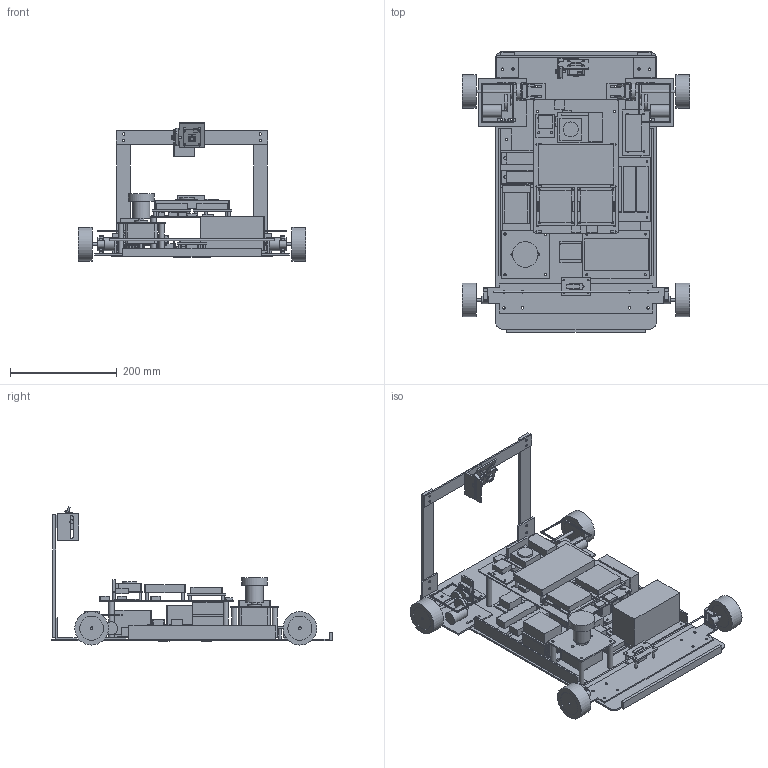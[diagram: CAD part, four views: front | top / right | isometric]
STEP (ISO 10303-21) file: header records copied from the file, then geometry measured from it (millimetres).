
FILE_DESCRIPTION(('Open CASCADE Model'),'2;1');
FILE_NAME('Open CASCADE Shape Model','2026-10-15T18:21:46',('Author'),( 'Open CASCADE'),'Open CASCADE STEP processor 7.9','Open CASCADE 7.9' ,'Unknown');
FILE_SCHEMA(('AUTOMOTIVE_DESIGN { 1 0 10303 214 1 1 1 1 }'));
Length unit declared in the file: millimetre
Products named in the file (226): chassis-a2-r1-implante; C01_1; C05_1; C06_1; C12_1; C13_1; C14_1; C15_1; C11G_1; C11D_1; C04D_1; C04G_1; C03_1; C07_1; C08_1; C02_1; C09_1; C09_2; C10_1; C16_1; C16_2; C17_1; C17_2; C17_3; C17_4; C18_1; C18_2; C19_1; L01_longeron_-1; L01_longeron_1; L02_pied_camera_-128; L02_pied_camera_128; L03_angle_pivot_camera; T01_L70_-72_194; T01_L70_-72_408; T01_L70_72_194; T01_L70_72_408; T02_L56_-133_102; T02_L56_-133_178; T02_L56_-57_102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
Assembly tree (225 placements, depth 2):
  chassis-a2-r1-implante
    C01_1
    C05_1
    C06_1
    C12_1
    C13_1
    C14_1
    C15_1
    C11G_1
    C11D_1
    C04D_1
    C04G_1
    C03_1
    C07_1
    C08_1
    C02_1
    C09_1
    C09_2
    C10_1
    C16_1
    C16_2
    C17_1
    C17_2
    C17_3
    C17_4
    C18_1
    C18_2
    C19_1
    L01_longeron_-1
    L01_longeron_1
    L02_pied_camera_-128
    L02_pied_camera_128
    L03_angle_pivot_camera
    T01_L70_-72_194
    T01_L70_-72_408
    T01_L70_72_194
    T01_L70_72_408
    T02_L56_-133_102
    T02_L56_-133_178
    T02_L56_-57_102
    T02_L56_-57_178
    N01_entretoise_servo_-23_68
    N01_entretoise_servo_-23_92
    N01_entretoise_servo_23_68
    N01_entretoise_servo_23_92
    N02_cale3_44
    N02_cale3_45
    N02_cale3_46
    N02_cale3_47
    N02_cale3_48
    N02_cale3_49
    N02_cale3_50
    N02_cale3_51
    N02_cale3_52
    N02_cale3_53
    N02_cale3_54
    N02_cale3_55
    N02_cale3_56
    N02_cale3_57
    N02_cale3_58
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Bounding box: 426 x 526 x 258.68 mm (x, y, z)
Volume: 3467723.3 mm3; surface area: 1336808.1 mm2
Topology: 225 solids, 225 shells, 1950 faces, 4388 edges, 2908 vertices
Faces by surface type: plane 1262, cylinder 684, cone 4
Full cylindrical faces by diameter (mm): 1.6 x4, 1.96 x4, 2 x2, 2.04 x4, 2.2 x10, 2.3 x4, 2.5 x8, 2.7 x22, 2.96 x4, 3 x5, 3.1 x4, 3.3 x4, 3.5 x149, 3.6 x4, 3.96 x1, 4 x4, 4.3 x1, 4.5 x90, 4.826 x8, 5 x12, 5.1 x2, 5.2 x4, 5.5 x12, 5.7 x4, 6 x37, 6.8 x1, 7 x1, 9.9 x1, 10 x9, 13 x2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
Entity records: 120682 total; most frequent: CARTESIAN_POINT 21648, DIRECTION 18525, LINE 10286, VECTOR 10286, ORIENTED_EDGE 8776, PCURVE 8776, DEFINITIONAL_REPRESENTATION 8776, EDGE_CURVE 4388
